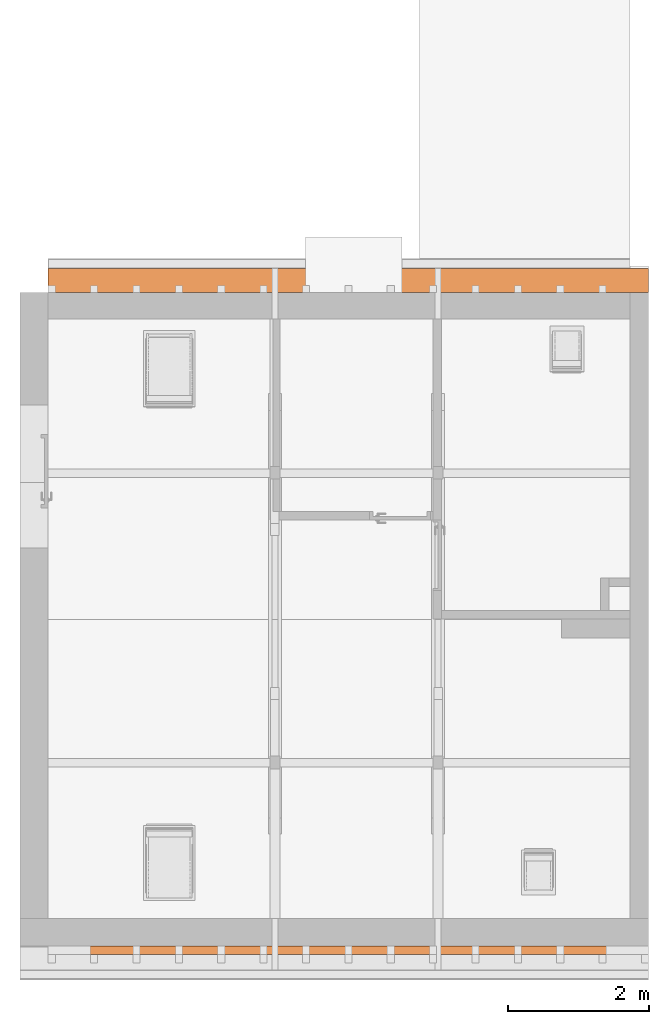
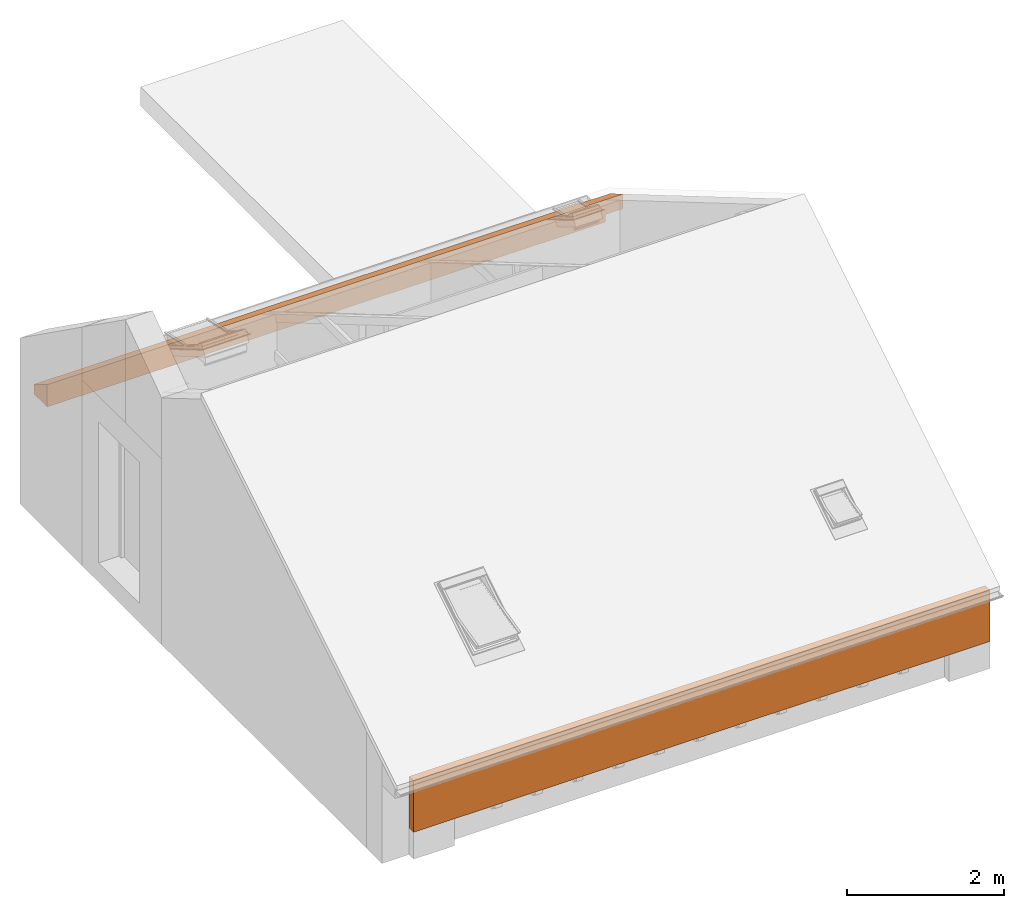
"""IFC4 building model written with IfcOpenShell, lengths in metres."""

from ifc_helpers import new_model, entity, si_unit, converted_unit, derived_unit, frame, origin, place, context, subcontext, project, spatial, faceted_brep, element, save


model = new_model("IFC4")

# Units and contexts
model_context = context("Model", 3, precision=1e-05, world=origin())
body_context = subcontext(model_context, "Body", "Model", "MODEL_VIEW")
ifc_project = project(units=[si_unit("LENGTHUNIT", "METRE"), si_unit("AREAUNIT", "SQUARE_METRE"), si_unit("VOLUMEUNIT", "CUBIC_METRE"), si_unit("MASSUNIT", "GRAM", prefix="KILO"), converted_unit("PLANEANGLEUNIT", "DEGREE", entity("IfcPlaneAngleMeasure", 0.0174532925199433), si_unit("PLANEANGLEUNIT", "RADIAN"), dimensions=[0, 0, 0, 0, 0, 0, 0]), derived_unit("THERMALTRANSMITTANCEUNIT", [(si_unit("POWERUNIT", "WATT"), 1), (si_unit("THERMODYNAMICTEMPERATUREUNIT", "KELVIN"), -1), (si_unit("LENGTHUNIT", "METRE"), -2)]), derived_unit("VOLUMETRICFLOWRATEUNIT", [(si_unit("LENGTHUNIT", "METRE"), 3), (converted_unit("TIMEUNIT", "hour", entity("IfcTimeMeasure", 3600.0), si_unit("TIMEUNIT", "SECOND"), dimensions=[0, 0, 1, 0, 0, 0, 0]), -1), (si_unit("LENGTHUNIT", "METRE"), -1)])], contexts=[model_context])

# Building, storeys
building_placement = place(None, origin())
building = spatial("IfcBuilding", under=ifc_project, at=building_placement, Name="Bestandsgebäude A - Sporthalle / Wohnhaus (TB 100-499)   ANPASSEN !!!", CompositionType="ELEMENT")
storey_1_placement = place(building_placement, frame((0.0, 0.0, 7.71)))
storey_1 = spatial("IfcBuildingStorey", under=building, at=storey_1_placement, Name="Geb. A Dachgeschoss (TB 450-499)", CompositionType="ELEMENT", Elevation=7.71)
storey_2_placement = place(storey_1_placement, frame((0.0, 0.0, 7.71)))
storey_2 = spatial("IfcBuildingStorey", under=storey_1, at=storey_2_placement, Name="Architektur (TB 450-459)", CompositionType="PARTIAL")

# Proxies
proxy_1_placement = place(storey_2_placement, frame((-8.49999999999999, -0.120000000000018, -7.69)))
element("IfcBuildingElementProxy", 1, at=proxy_1_placement, inside=storey_2, context=body_context, shape_type="Brep", body=[
    faceted_brep([(0.0, 0.120000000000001, 0.8), (0.0, 0.120000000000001, 0.0), (8.49999999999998, 0.120000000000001, 0.0), (8.49999999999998, 0.120000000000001, 0.8), (8.49999999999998, 0.0, 0.0), (8.49999999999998, 0.0, 0.8), (0.0, 0.0, 0.0), (0.0, 0.0, 0.8)], [[[0, 1, 2, 3]], [[3, 2, 4, 5]], [[5, 4, 6, 7]], [[7, 6, 1, 0]], [[0, 3, 5, 7]], [[1, 6, 4, 2]]], orient=[[False], [False], [False], [False], [False], [False]]),
])
proxy_2_placement = place(storey_2_placement, frame((-8.5, 9.25, -6.73808962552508)))
element("IfcBuildingElementProxy", 2, at=proxy_2_placement, inside=storey_2, context=body_context, shape_type="Brep", body=[
    faceted_brep([(8.5, 0.34, 0.118089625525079), (8.5, 0.34, 0.14808962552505), (0.0, 0.339999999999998, 0.148089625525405), (0.0, 0.34, 0.0), (8.24, 0.34, 0.0), (8.24, 0.34, 0.118089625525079), (8.5, 0.0, 0.348045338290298), (8.5, 0.0, 0.118089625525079), (8.24, 0.0, 0.118089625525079), (8.24, 0.0, 0.0), (0.0, 0.0, 0.0), (0.0, 0.0, 0.348045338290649)], [[[0, 1, 2, 3, 4, 5]], [[6, 7, 8, 9, 10, 11]], [[1, 0, 7, 6]], [[0, 5, 8, 7]], [[1, 6, 11, 2]], [[5, 4, 9, 8]], [[4, 3, 10, 9]], [[3, 2, 11, 10]]], orient=[[False], [False], [False], [False], [False], [False], [False], [False]]),
])

save(model, "model.ifc")
